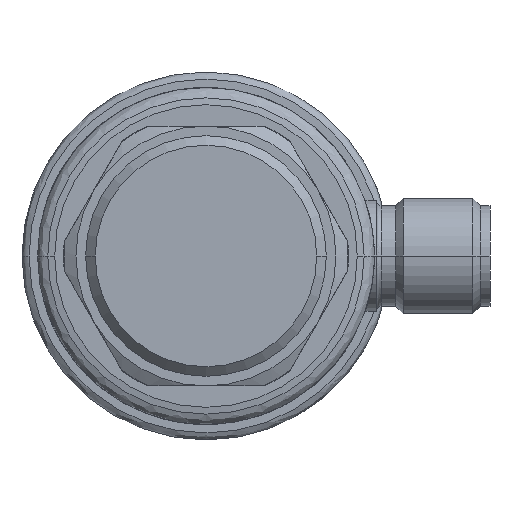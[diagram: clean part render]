
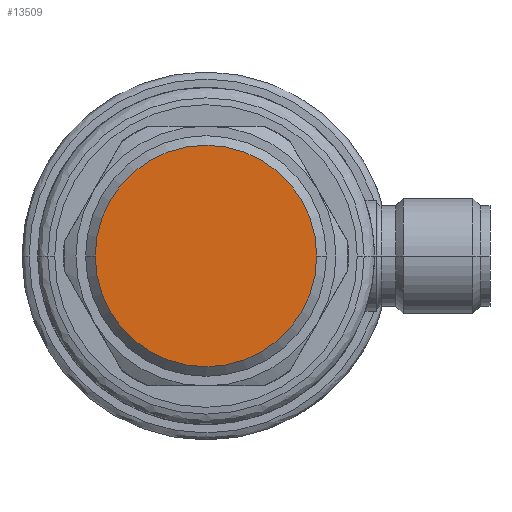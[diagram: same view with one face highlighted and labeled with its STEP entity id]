
A CAD part, front view. The second image highlights one B-rep face of the part: STEP entity #13509.
In plain terms, the highlighted free-form (B-spline) face has degree [1, 1] with [2, 2] control points.
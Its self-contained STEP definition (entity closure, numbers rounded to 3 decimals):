
#3132=CARTESIAN_POINT('',(0.,0.,0.));
#3133=DIRECTION('',(0.,1.,0.));
#3134=DIRECTION('',(-1.,0.,0.));
#3135=AXIS2_PLACEMENT_3D('',#3132,#3133,#3134);
#3137=CARTESIAN_POINT('',(0.,0.,0.));
#3138=DIRECTION('',(0.,-1.,0.));
#3139=DIRECTION('',(-1.,0.,0.));
#3140=AXIS2_PLACEMENT_3D('',#3137,#3138,#3139);
#9937=CARTESIAN_POINT('',(-11.5,0.,0.));
#9939=VERTEX_POINT('',#9937);
#9943=CARTESIAN_POINT('',(11.5,0.,0.));
#9945=VERTEX_POINT('',#9943);
#13500=CARTESIAN_POINT('',(-11.96,0.,-11.96));
#13501=CARTESIAN_POINT('',(-11.96,0.,11.96));
#13502=CARTESIAN_POINT('',(11.96,0.,-11.96));
#13503=CARTESIAN_POINT('',(11.96,0.,11.96));
#13504=B_SPLINE_SURFACE_WITH_KNOTS('',1,1,((#13500,#13501),(#13502,#13503)),
.UNSPECIFIED.,.F.,.F.,.F.,(2,2),(2,2),(-11.96,11.96),(-11.96,11.96),
.UNSPECIFIED.);
#13505=ORIENTED_EDGE('',*,*,#13468,.T.);
#13506=ORIENTED_EDGE('',*,*,#13493,.F.);
#13507=EDGE_LOOP('',(#13505,#13506));
#13508=FACE_OUTER_BOUND('',#13507,.F.);
#3136=CIRCLE('',#3135,11.5);
#3141=CIRCLE('',#3140,11.5);
#13468=EDGE_CURVE('',#9939,#9945,#3136,.T.);
#13493=EDGE_CURVE('',#9939,#9945,#3141,.T.);
#13509=ADVANCED_FACE('',(#13508),#13504,.T.);
